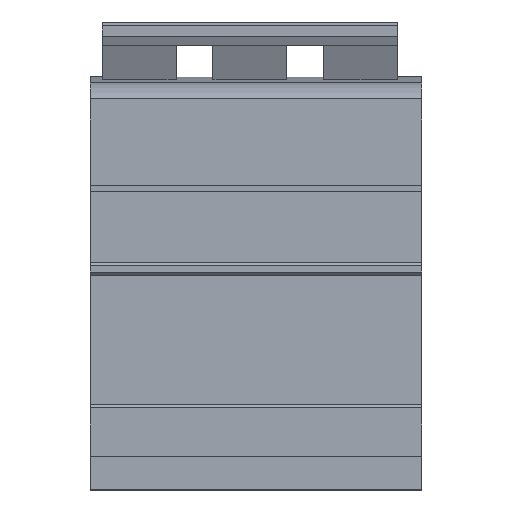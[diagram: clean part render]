
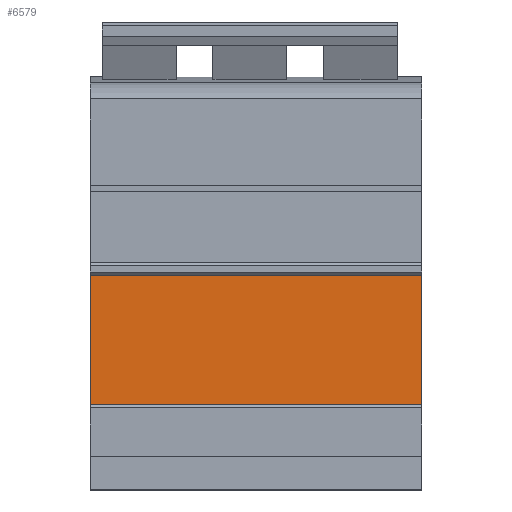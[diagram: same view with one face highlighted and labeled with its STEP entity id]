
A CAD part, front view. The second image highlights one B-rep face of the part: STEP entity #6579.
In plain terms, the highlighted planar face has unit normal (0, -1, 0).
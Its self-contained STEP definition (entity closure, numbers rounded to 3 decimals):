
#344=LINE('',#10834,#892);
#383=LINE('',#11324,#931);
#427=LINE('',#11415,#975);
#428=LINE('',#11417,#976);
#892=VECTOR('',#8205,10.);
#931=VECTOR('',#8600,10.);
#975=VECTOR('',#8656,10.);
#976=VECTOR('',#8659,10.);
#1740=FACE_OUTER_BOUND('',#2259,.T.);
#2259=EDGE_LOOP('',(#5231,#5232,#5233,#5234));
#3057=VERTEX_POINT('',#10831);
#3058=VERTEX_POINT('',#10833);
#3159=VERTEX_POINT('',#11321);
#3160=VERTEX_POINT('',#11323);
#3790=EDGE_CURVE('',#3057,#3058,#344,.T.);
#3925=EDGE_CURVE('',#3160,#3159,#383,.T.);
#3972=EDGE_CURVE('',#3159,#3058,#427,.T.);
#3973=EDGE_CURVE('',#3160,#3057,#428,.T.);
#5231=ORIENTED_EDGE('',*,*,#3925,.T.);
#5232=ORIENTED_EDGE('',*,*,#3972,.T.);
#5233=ORIENTED_EDGE('',*,*,#3790,.F.);
#5234=ORIENTED_EDGE('',*,*,#3973,.F.);
#6181=PLANE('',#7228);
#6579=ADVANCED_FACE('',(#1740),#6181,.T.);
#7228=AXIS2_PLACEMENT_3D('',#11416,#8657,#8658);
#8205=DIRECTION('',(0.,0.,-1.));
#8600=DIRECTION('',(0.,0.,-1.));
#8656=DIRECTION('',(1.,0.,0.));
#8657=DIRECTION('center_axis',(0.,-1.,0.));
#8658=DIRECTION('ref_axis',(0.,0.,-1.));
#8659=DIRECTION('',(1.,0.,0.));
#10831=CARTESIAN_POINT('',(54.,-45.21,5.279));
#10833=CARTESIAN_POINT('',(54.,-45.21,-15.833));
#10834=CARTESIAN_POINT('',(54.,-45.21,5.279));
#11321=CARTESIAN_POINT('',(0.,-45.21,-15.833));
#11323=CARTESIAN_POINT('',(0.,-45.21,5.279));
#11324=CARTESIAN_POINT('',(0.,-45.21,5.279));
#11415=CARTESIAN_POINT('',(0.,-45.21,-15.833));
#11416=CARTESIAN_POINT('Origin',(0.,-45.21,5.279));
#11417=CARTESIAN_POINT('',(0.,-45.21,5.279));
